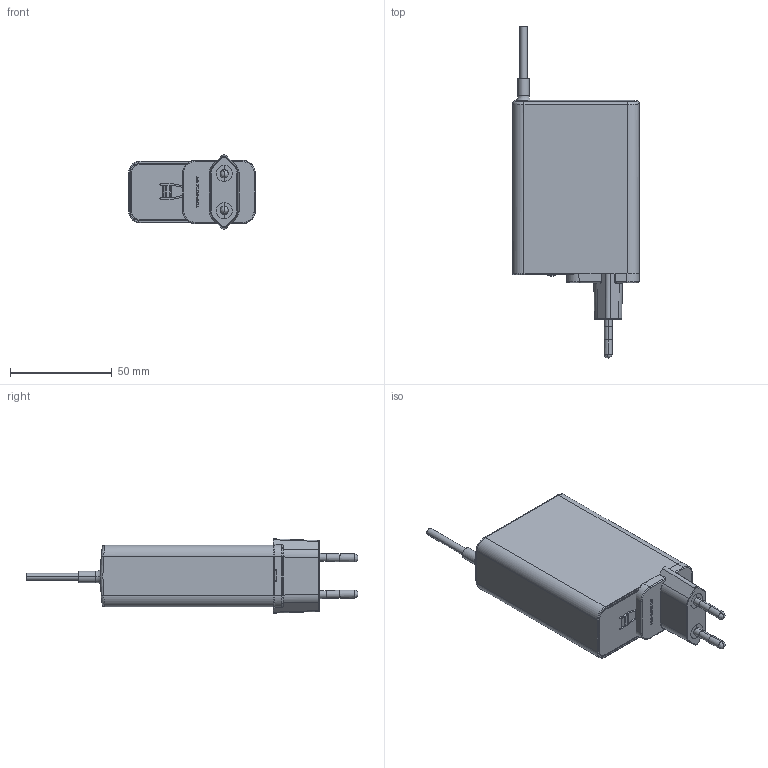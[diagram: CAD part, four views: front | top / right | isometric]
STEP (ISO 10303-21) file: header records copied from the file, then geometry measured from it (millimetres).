
FILE_DESCRIPTION(('Creo Elements/Direct Modeling STEP Export'),'2;1');
FILE_NAME('NGE90E.stp','2025-09-30T10:56:10',(''),(''),'Creo Elements/Direct Modeling STEP processor for AP214 (Solid Model)','Creo Elements/Direct Modeling 19.0G 27-Nov-2017 (C) Parametric Technology GmbH','');
FILE_SCHEMA(('AUTOMOTIVE_DESIGN { 1 0 10303 214 1 1 1 1 }'));
Length unit declared in the file: millimetre
Products named in the file (244): 零件1; _X2_96F64EF6_X0_1-4600.PRT; _X2_96F64EF6_X0_1-4930.ASM; ZHAOFAA4CA11JC19_1_PRT_P-417770.PRT; ZHAOFAA4CA11JC19_1_PRT_P-418100.ASM; ZHAOFAA4CA11JC19_2_PRT_P-405090.PRT; ZHAOFAA4CA11JC19_2_PRT_P-405420.ASM; ZHAOFAA4CA11JC19_3_PRT_P-392220.PRT; ZHAOFAA4CA11JC19_3_PRT_P-392740.ASM; ZHAOFAA4CA11JC19_4_PRT_P-311580.PRT; ZHAOFAA4CA11JC19_4_PRT_P-311910.ASM; ZHAOFAA4CA11JC19_5_PRT_P-280860.PRT; ZHAOFAA4CA11JC19_5_PRT_P-287090.ASM; EU_STP.ASM; CASE_X2_524D84CB_X0__PR-2667820.PRT; JJ_PRT-57290_ASM_ASM_AS-2667580.PRT; P1_PRT-37090_ASM_ASM_AS-2667340.PRT; P1_1-1021660_PRT-25790_-2667100.PRT; P1_2_PRT-17320_ASM_ASM_-2666860.PRT; RPA_PRT_1_1_1_PRT-13290_PRT_PRT.PRT; RPA_PRT_1_1_1_PRT-13900-2666580.ASM; RPA_PRT_1_1_1_PRT_5_ASM-2666250.ASM; RPA_PRT_1_1_P1_1_PRT_PR-2660150.PRT; WW_1_1_PRT-6150_PRT_PRT-2658680.PRT; WW_1_1_PRT-6480_ASM_ASM-2659010.ASM; NGE-100______STP_ASM_AS-2668060.ASM; NGE-100_X2_8F6C63625934-2668660.ASM; NGE-100______STP.ASM; 1XX3NGE90-B_STP.PRT; 1XX3NGE100-F_PRT-132970_-133190.PRT; 1XX3NGE100-F_STP.ASM; CASE_X2_672C9AD4_X0__PRT-51190_.PRT; CASE_X2_672C9AD4_X0__PRT-51590_.ASM; NGE-100___STP_X2_4E3B4F53_X0_.ASM; _X2_88C5914D_X0_1.PRT; _X2_656370ED7247_X0_-2592560.ASM; NGE90_X2_540E76D6_X0_-54040_PRT.PRT; NGE90_X2_540E76D6_X0_-55790_ASM.ASM; NGE-65-90_X2_540E76D6_X0_.ASM; 778278480_ASM_20.PRT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
Assembly tree (302 placements, depth 11):
  零件1
  NGE90E.stp
    NGE-100______STP_1.ASM
      NGE-100_X2_8F6C63625934-2887570.ASM
        NGE-100______STP_ASM_AS-2886970.ASM
          WW_1_1_PRT-6480_ASM_ASM-2883820.ASM
            WW_1_1_PRT-6150_PRT_PRT-2883490.PRT
          RPA_PRT_1_1_P1_1_PRT_PR-2884960.PRT
          RPA_PRT_1_1_1_PRT_5_ASM-2885290.PRT
          RPA_PRT_1_1_1_PRT-13900-2885530.PRT
          P1_2_PRT-17320_ASM_ASM_-2885770.PRT
          P1_1-1021660_PRT-25790_-2886010.PRT
          P1_PRT-37090_ASM_ASM_AS-2886250.PRT
          JJ_PRT-57290_ASM_ASM_AS-2886490.PRT
          CASE_X2_524D84CB_X0__PR-2886730.PRT
    NGE100F_STP.ASM
      _X2_97627EC4_X0__1-19085-207700.ASM
        _X2_97627EC4_X0__1-19085-202710.PRT
    NGE90.ASM
      1_STP.ASM
        _X2_9EA662C9656370ED7247_X0__AS.PRT
      NGE-12___B_STP.PRT
      NGE-90-2651590.ASM
        NGE-90-2535110.ASM
          GRR_STP.ASM
            GRR_PRT.PRT
          _X2_88C5914D_X0_2.PRT
          _X2_656370ED7247_X0_-2429730.ASM
            1759143424_ASM.PRT
          _X2_656370ED7247_X0_2.PRT
          NGE100-02-13_-____2__STP.PRT
          NGE90-R0-0905_STEP.ASM
            PCB_ASM.ASM
              BOARD_PRT.PRT
              D1_ASM.ASM
                2CDX-SMA_PRT.PRT
              C5_ASM.ASM
                690514120_ASM.PRT
                690520352_ASM.PRT
                690520504_ASM.PRT
                690520656_ASM_11.PRT  x2
                690520808_ASM_10.PRT  x2
                690520960_ASM_9.PRT  x2
              C114_ASM.PRT
              C115_ASM.PRT
              R15_ASM.ASM
                690513208_ASM.PRT
              C8_ASM.PRT
              C105_ASM.ASM
                690521568_ASM.PRT
                690521720_ASM_5.PRT  x2
                690521872_ASM.PRT
                778279440_ASM.PRT
              ZNR1_ASM.PRT
              D105_ASM.ASM
                778278000_ASM.PRT  x2
                778279600_ASM.PRT
                778279760_ASM.PRT
              D103_ASM.ASM
                2CUX-SOD123_ASM.PRT
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Bounding box: 62.08 x 163.01 x 36.47 mm (x, y, z)
Volume: 54348.5 mm3; surface area: 66775 mm2
Topology: 17 solids, 19 shells, 1896 faces, 5613 edges, 3810 vertices
Faces by surface type: plane 1264, cylinder 445, bspline 82, cone 52, torus 39, extrusion 12, sphere 2
Entity records: 87671 total; most frequent: CARTESIAN_POINT 22158, ORIENTED_EDGE 11130, DIRECTION 9644, EDGE_CURVE 5565, VECTOR 3796, LINE 3784, VERTEX_POINT 3782, AXIS2_PLACEMENT_3D 2924
